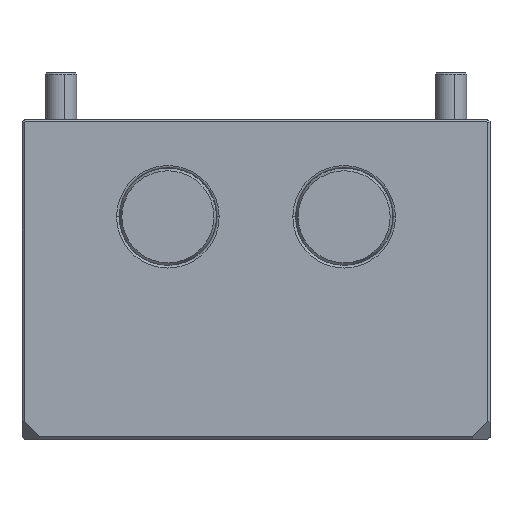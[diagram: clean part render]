
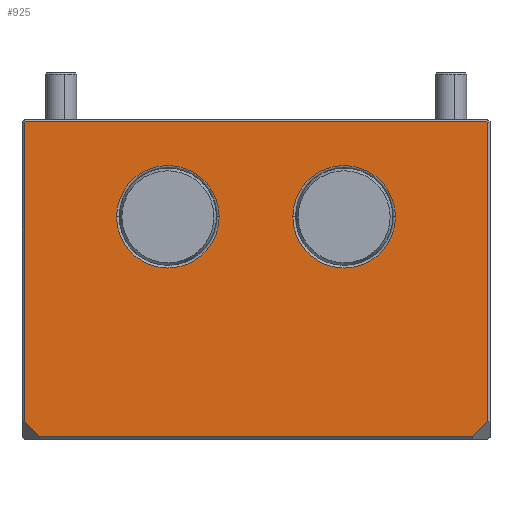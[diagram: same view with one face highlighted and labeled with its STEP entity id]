
A CAD part, top view. The second image highlights one B-rep face of the part: STEP entity #925.
In plain terms, the highlighted planar face has unit normal (0, 0, 1).
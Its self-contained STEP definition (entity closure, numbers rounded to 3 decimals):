
#209=LINE('',#6287,#553);
#210=LINE('',#6290,#554);
#211=LINE('',#6292,#555);
#212=LINE('',#6294,#556);
#213=LINE('',#6296,#557);
#214=LINE('',#6298,#558);
#215=LINE('',#6300,#559);
#216=LINE('',#6302,#560);
#553=VECTOR('',#4914,1.);
#554=VECTOR('',#4915,1.);
#555=VECTOR('',#4916,1.);
#556=VECTOR('',#4917,1.);
#557=VECTOR('',#4918,1.);
#558=VECTOR('',#4919,1.);
#559=VECTOR('',#4920,1.);
#560=VECTOR('',#4921,1.);
#925=ADVANCED_FACE('',(#1304,#1305,#1369),#1158,.T.);
#1158=PLANE('',#4310);
#1304=FACE_BOUND('',#1635,.T.);
#1305=FACE_BOUND('',#1636,.T.);
#1369=FACE_OUTER_BOUND('',#1637,.T.);
#1635=EDGE_LOOP('',(#2052,#2053));
#1636=EDGE_LOOP('',(#2054,#2055));
#1637=EDGE_LOOP('',(#2056,#2057,#2058,#2059,#2060,#2061,#2062,#2063));
#2052=ORIENTED_EDGE('',*,*,#3555,.T.);
#2053=ORIENTED_EDGE('',*,*,#3476,.T.);
#2054=ORIENTED_EDGE('',*,*,#3556,.T.);
#2055=ORIENTED_EDGE('',*,*,#3473,.T.);
#2056=ORIENTED_EDGE('',*,*,#3557,.T.);
#2057=ORIENTED_EDGE('',*,*,#3558,.T.);
#2058=ORIENTED_EDGE('',*,*,#3559,.T.);
#2059=ORIENTED_EDGE('',*,*,#3560,.T.);
#2060=ORIENTED_EDGE('',*,*,#3561,.T.);
#2061=ORIENTED_EDGE('',*,*,#3562,.T.);
#2062=ORIENTED_EDGE('',*,*,#3563,.T.);
#2063=ORIENTED_EDGE('',*,*,#3564,.T.);
#3099=VERTEX_POINT('',#6033);
#3100=VERTEX_POINT('',#6035);
#3101=VERTEX_POINT('',#6039);
#3102=VERTEX_POINT('',#6041);
#3166=VERTEX_POINT('',#6288);
#3167=VERTEX_POINT('',#6289);
#3168=VERTEX_POINT('',#6291);
#3169=VERTEX_POINT('',#6293);
#3170=VERTEX_POINT('',#6295);
#3171=VERTEX_POINT('',#6297);
#3172=VERTEX_POINT('',#6299);
#3173=VERTEX_POINT('',#6301);
#3473=EDGE_CURVE('',#3100,#3099,#4044,.T.);
#3476=EDGE_CURVE('',#3102,#3101,#4047,.T.);
#3555=EDGE_CURVE('',#3101,#3102,#4075,.T.);
#3556=EDGE_CURVE('',#3099,#3100,#4076,.T.);
#3557=EDGE_CURVE('',#3166,#3167,#209,.T.);
#3558=EDGE_CURVE('',#3167,#3168,#210,.T.);
#3559=EDGE_CURVE('',#3168,#3169,#211,.T.);
#3560=EDGE_CURVE('',#3169,#3170,#212,.T.);
#3561=EDGE_CURVE('',#3170,#3171,#213,.T.);
#3562=EDGE_CURVE('',#3171,#3172,#214,.T.);
#3563=EDGE_CURVE('',#3172,#3173,#215,.T.);
#3564=EDGE_CURVE('',#3173,#3166,#216,.T.);
#4044=CIRCLE('',#4260,6.571);
#4047=CIRCLE('',#4264,6.571);
#4075=CIRCLE('',#4308,6.571);
#4076=CIRCLE('',#4309,6.571);
#4260=AXIS2_PLACEMENT_3D('',#6034,#4771,#4772);
#4264=AXIS2_PLACEMENT_3D('',#6040,#4779,#4780);
#4308=AXIS2_PLACEMENT_3D('',#6285,#4910,#4911);
#4309=AXIS2_PLACEMENT_3D('',#6286,#4912,#4913);
#4310=AXIS2_PLACEMENT_3D('',#6303,#4922,#4923);
#4771=DIRECTION('',(0.,0.,-1.));
#4772=DIRECTION('',(1.,0.,0.));
#4779=DIRECTION('',(0.,0.,-1.));
#4780=DIRECTION('',(1.,0.,0.));
#4910=DIRECTION('',(0.,0.,-1.));
#4911=DIRECTION('',(1.,0.,0.));
#4912=DIRECTION('',(0.,0.,-1.));
#4913=DIRECTION('',(1.,0.,0.));
#4914=DIRECTION('',(0.707,-0.707,0.));
#4915=DIRECTION('',(1.,0.,0.));
#4916=DIRECTION('',(0.707,0.707,0.));
#4917=DIRECTION('',(0.,1.,0.));
#4918=DIRECTION('',(-0.707,0.707,0.));
#4919=DIRECTION('',(-1.,0.,0.));
#4920=DIRECTION('',(-0.707,-0.707,0.));
#4921=DIRECTION('',(0.,-1.,0.));
#4922=DIRECTION('',(0.,0.,1.));
#4923=DIRECTION('',(1.,0.,0.));
#6033=CARTESIAN_POINT('',(-4.729,8.,0.));
#6034=CARTESIAN_POINT('',(-11.3,8.,0.));
#6035=CARTESIAN_POINT('',(-17.871,8.,0.));
#6039=CARTESIAN_POINT('',(17.871,8.,0.));
#6040=CARTESIAN_POINT('',(11.3,8.,0.));
#6041=CARTESIAN_POINT('',(4.729,8.,0.));
#6285=CARTESIAN_POINT('',(11.3,8.,0.));
#6286=CARTESIAN_POINT('',(-11.3,8.,0.));
#6287=CARTESIAN_POINT('',(-23.98,-23.98,0.));
#6288=CARTESIAN_POINT('',(-29.7,-18.26,0.));
#6289=CARTESIAN_POINT('',(-27.76,-20.2,0.));
#6290=CARTESIAN_POINT('',(0.,-20.2,0.));
#6291=CARTESIAN_POINT('',(27.76,-20.2,0.));
#6292=CARTESIAN_POINT('',(23.98,-23.98,0.));
#6293=CARTESIAN_POINT('',(29.7,-18.26,0.));
#6294=CARTESIAN_POINT('',(29.7,0.,0.));
#6295=CARTESIAN_POINT('',(29.7,20.076,0.));
#6296=CARTESIAN_POINT('',(24.888,24.888,0.));
#6297=CARTESIAN_POINT('',(29.576,20.2,0.));
#6298=CARTESIAN_POINT('',(0.,20.2,0.));
#6299=CARTESIAN_POINT('',(-29.576,20.2,0.));
#6300=CARTESIAN_POINT('',(-24.888,24.888,0.));
#6301=CARTESIAN_POINT('',(-29.7,20.076,0.));
#6302=CARTESIAN_POINT('',(-29.7,0.,0.));
#6303=CARTESIAN_POINT('',(0.,0.,0.));
